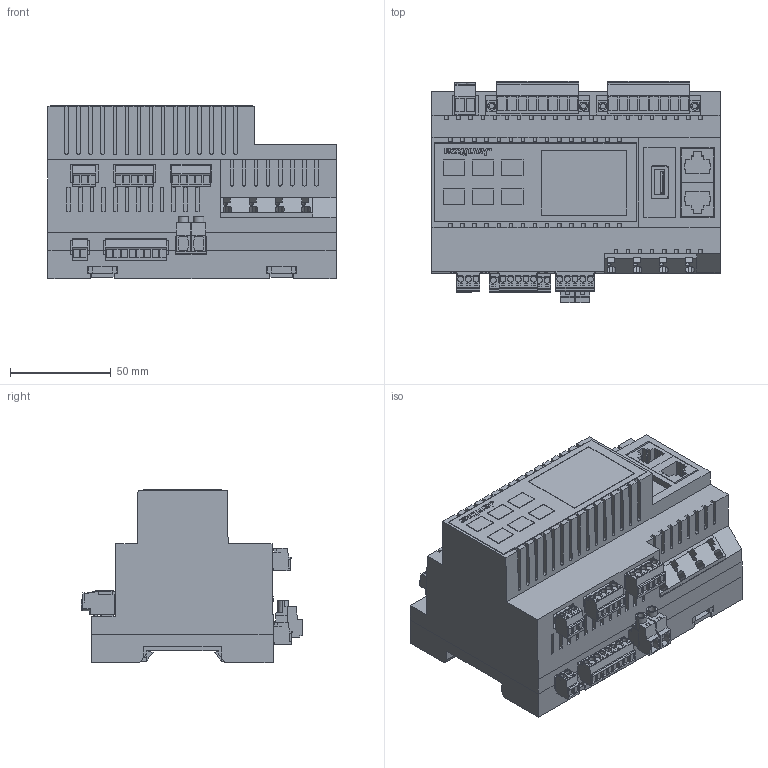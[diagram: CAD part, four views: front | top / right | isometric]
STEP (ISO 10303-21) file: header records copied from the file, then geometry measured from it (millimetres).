
FILE_DESCRIPTION(/* description */ ('STEP AP214'),/* implementation_level */ '2;1');
FILE_NAME(/* name */ 'K:\Janitza\3D-Daten\2.053.018.0\Test\8-2.053.018.0.stp',/* time_stamp */ '2019-07-02T10:19:56+02:00',/* author */ ('mh'),/* organization */ (''),/* preprocessor_version */ 'ST-DEVELOPER v18',/* originating_system */ 'Autodesk Inventor 2020',/* authorisation */ '');
FILE_SCHEMA (('AUTOMOTIVE_DESIGN { 1 0 10303 214 3 1 1 }'));
Length unit declared in the file: millimetre
Products named in the file (14): 7-2.053.018.0; 2.053.018.0a; 2.053.018.0b; R-2.053.018.0c; 23-LOGO; R-1001857-1792770000; 1001880-1059580000; 1001859-1792780000; R-1001853-1944390000; R-1001863-1792800000; R-1001891-1792820000; R-1001855-1943810000; R-RJ45-2516380000; R-USB-2563730000
Assembly tree (19 placements, depth 2):
  7-2.053.018.0
    2.053.018.0a
    2.053.018.0b  x4
    R-2.053.018.0c
    23-LOGO
    R-1001857-1792770000
    R-1001853-1944390000  x2
    1001880-1059580000
    1001859-1792780000
    R-1001863-1792800000  x2
    R-1001891-1792820000
    R-1001855-1943810000
    R-RJ45-2516380000  x2
    R-USB-2563730000
Bounding box: 143 x 109.95 x 86.1 mm (x, y, z)
Volume: 754640.2 mm3; surface area: 136977.4 mm2
Topology: 28 solids, 32 shells, 2523 faces, 6689 edges, 4423 vertices
Faces by surface type: plane 2187, cylinder 285, bspline 51
Full cylindrical faces by diameter (mm): 2 x4, 2.7 x4, 2.9 x23, 3.8 x20, 4 x4, 5 x4
Entity records: 62063 total; most frequent: CARTESIAN_POINT 11465, ORIENTED_EDGE 10532, DIRECTION 9538, EDGE_CURVE 5266, LINE 4676, VECTOR 4676, VERTEX_POINT 3490, AXIS2_PLACEMENT_3D 2431
